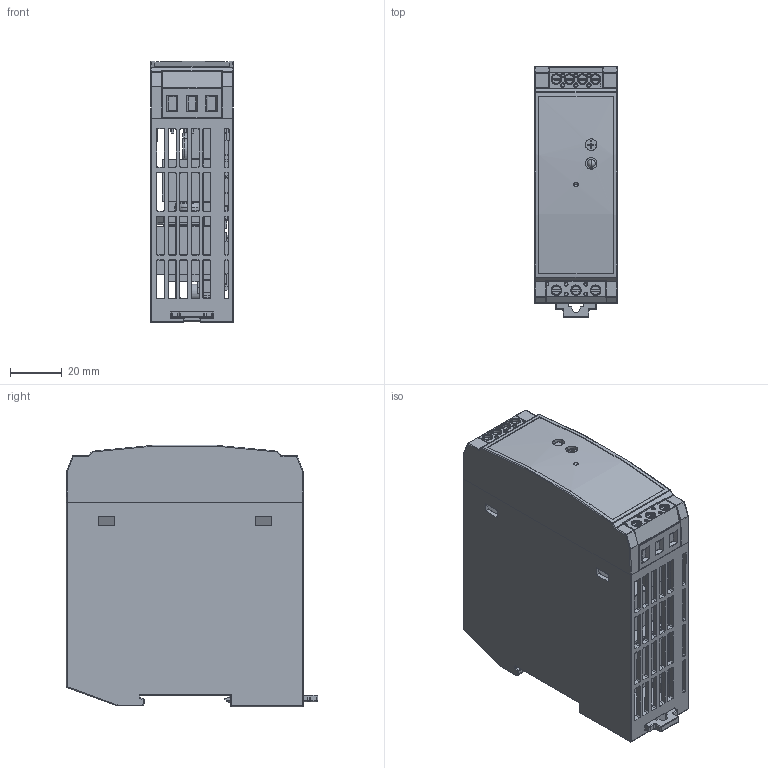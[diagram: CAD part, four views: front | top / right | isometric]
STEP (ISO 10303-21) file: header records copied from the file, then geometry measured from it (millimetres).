
FILE_DESCRIPTION((''),'2;1');
FILE_NAME('0TOP_DG-15-S12','2022-08-18T14:37:24',('pd071'),(''),'CREO PARAMETRIC BY PTC INC, 2017260','CREO PARAMETRIC BY PTC INC, 2017260','');
FILE_SCHEMA(('CONFIG_CONTROL_DESIGN','SHAPE_APPEARANCE_LAYERS_GROUPS'));
Products named in the file (1): 0TOP_DG-15-S12
Bounding box: 32 x 97.49 x 101.44 mm (x, y, z)
Surface area: 154495.4 mm2 (no closed solid volume)
Topology: 0 solids, 311 shells, 2706 faces, 8665 edges, 6213 vertices
Faces by surface type: plane 1857, cylinder 580, cone 111, torus 109, sphere 26, bspline 23
Entity records: 109660 total; most frequent: CARTESIAN_POINT 20567, DIRECTION 15046, ORIENTED_EDGE 14203, EDGE_CURVE 8659, VECTOR 6508, LINE 6508, VERTEX_POINT 6213, AXIS2_PLACEMENT_3D 4269
